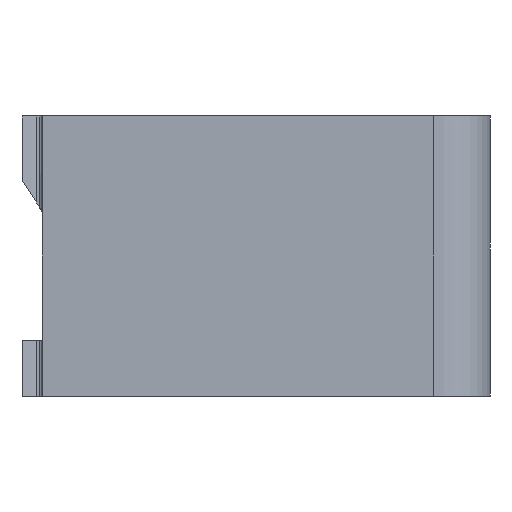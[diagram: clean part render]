
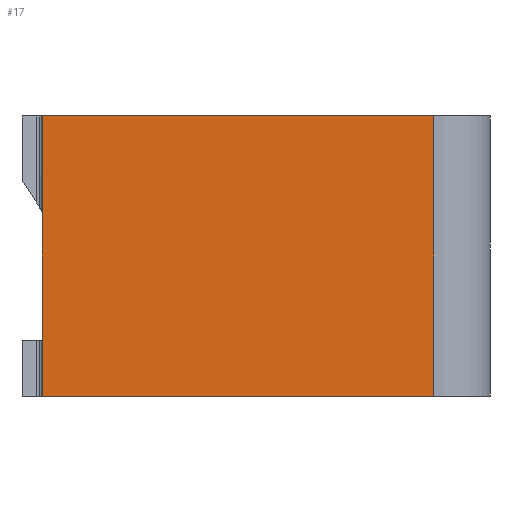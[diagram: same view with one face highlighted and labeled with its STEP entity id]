
A CAD part, left-side view. The second image highlights one B-rep face of the part: STEP entity #17.
In plain terms, the highlighted planar face has unit normal (-1, 0, 0).
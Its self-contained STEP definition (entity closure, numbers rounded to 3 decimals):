
#17 = ADVANCED_FACE('',(#18),#32,.F.);
#18 = FACE_BOUND('',#19,.F.);
#19 = EDGE_LOOP('',(#20,#55,#83,#111));
#20 = ORIENTED_EDGE('',*,*,#21,.F.);
#21 = EDGE_CURVE('',#22,#24,#26,.T.);
#22 = VERTEX_POINT('',#23);
#23 = CARTESIAN_POINT('',(-226.013,-140.131,100.));
#24 = VERTEX_POINT('',#25);
#25 = CARTESIAN_POINT('',(-226.013,-0.15,100.));
#26 = SURFACE_CURVE('',#27,(#31,#43),.PCURVE_S1.);
#27 = LINE('',#28,#29);
#28 = CARTESIAN_POINT('',(-226.013,-160.131,100.));
#29 = VECTOR('',#30,1.);
#30 = DIRECTION('',(0.,1.,0.));
#31 = PCURVE('',#32,#37);
#32 = PLANE('',#33);
#33 = AXIS2_PLACEMENT_3D('',#34,#35,#36);
#34 = CARTESIAN_POINT('',(-226.013,-160.131,0.));
#35 = DIRECTION('',(1.,0.,0.));
#36 = DIRECTION('',(0.,0.,1.));
#37 = DEFINITIONAL_REPRESENTATION('',(#38),#42);
#38 = LINE('',#39,#40);
#39 = CARTESIAN_POINT('',(100.,0.));
#40 = VECTOR('',#41,1.);
#41 = DIRECTION('',(0.,-1.));
#42 = ( GEOMETRIC_REPRESENTATION_CONTEXT(2) 
PARAMETRIC_REPRESENTATION_CONTEXT() REPRESENTATION_CONTEXT('2D SPACE',''
  ) );
#43 = PCURVE('',#44,#49);
#44 = PLANE('',#45);
#45 = AXIS2_PLACEMENT_3D('',#46,#47,#48);
#46 = CARTESIAN_POINT('',(-226.013,-160.131,100.));
#47 = DIRECTION('',(0.,0.,1.));
#48 = DIRECTION('',(1.,0.,-0.));
#49 = DEFINITIONAL_REPRESENTATION('',(#50),#54);
#50 = LINE('',#51,#52);
#51 = CARTESIAN_POINT('',(0.,0.));
#52 = VECTOR('',#53,1.);
#53 = DIRECTION('',(0.,1.));
#54 = ( GEOMETRIC_REPRESENTATION_CONTEXT(2) 
PARAMETRIC_REPRESENTATION_CONTEXT() REPRESENTATION_CONTEXT('2D SPACE',''
  ) );
#55 = ORIENTED_EDGE('',*,*,#56,.F.);
#56 = EDGE_CURVE('',#57,#22,#59,.T.);
#57 = VERTEX_POINT('',#58);
#58 = CARTESIAN_POINT('',(-226.013,-140.131,0.));
#59 = SURFACE_CURVE('',#60,(#64,#71),.PCURVE_S1.);
#60 = LINE('',#61,#62);
#61 = CARTESIAN_POINT('',(-226.013,-140.131,0.));
#62 = VECTOR('',#63,1.);
#63 = DIRECTION('',(0.,0.,1.));
#64 = PCURVE('',#32,#65);
#65 = DEFINITIONAL_REPRESENTATION('',(#66),#70);
#66 = LINE('',#67,#68);
#67 = CARTESIAN_POINT('',(0.,-20.));
#68 = VECTOR('',#69,1.);
#69 = DIRECTION('',(1.,0.));
#70 = ( GEOMETRIC_REPRESENTATION_CONTEXT(2) 
PARAMETRIC_REPRESENTATION_CONTEXT() REPRESENTATION_CONTEXT('2D SPACE',''
  ) );
#71 = PCURVE('',#72,#77);
#72 = CYLINDRICAL_SURFACE('',#73,20.);
#73 = AXIS2_PLACEMENT_3D('',#74,#75,#76);
#74 = CARTESIAN_POINT('',(-206.013,-140.131,0.));
#75 = DIRECTION('',(0.,0.,1.));
#76 = DIRECTION('',(-1.,-0.,0.));
#77 = DEFINITIONAL_REPRESENTATION('',(#78),#82);
#78 = LINE('',#79,#80);
#79 = CARTESIAN_POINT('',(0.,0.));
#80 = VECTOR('',#81,1.);
#81 = DIRECTION('',(0.,1.));
#82 = ( GEOMETRIC_REPRESENTATION_CONTEXT(2) 
PARAMETRIC_REPRESENTATION_CONTEXT() REPRESENTATION_CONTEXT('2D SPACE',''
  ) );
#83 = ORIENTED_EDGE('',*,*,#84,.T.);
#84 = EDGE_CURVE('',#57,#85,#87,.T.);
#85 = VERTEX_POINT('',#86);
#86 = CARTESIAN_POINT('',(-226.013,-0.15,0.));
#87 = SURFACE_CURVE('',#88,(#92,#99),.PCURVE_S1.);
#88 = LINE('',#89,#90);
#89 = CARTESIAN_POINT('',(-226.013,-160.131,0.));
#90 = VECTOR('',#91,1.);
#91 = DIRECTION('',(0.,1.,0.));
#92 = PCURVE('',#32,#93);
#93 = DEFINITIONAL_REPRESENTATION('',(#94),#98);
#94 = LINE('',#95,#96);
#95 = CARTESIAN_POINT('',(0.,0.));
#96 = VECTOR('',#97,1.);
#97 = DIRECTION('',(0.,-1.));
#98 = ( GEOMETRIC_REPRESENTATION_CONTEXT(2) 
PARAMETRIC_REPRESENTATION_CONTEXT() REPRESENTATION_CONTEXT('2D SPACE',''
  ) );
#99 = PCURVE('',#100,#105);
#100 = PLANE('',#101);
#101 = AXIS2_PLACEMENT_3D('',#102,#103,#104);
#102 = CARTESIAN_POINT('',(-226.013,-160.131,0.));
#103 = DIRECTION('',(0.,0.,1.));
#104 = DIRECTION('',(1.,0.,-0.));
#105 = DEFINITIONAL_REPRESENTATION('',(#106),#110);
#106 = LINE('',#107,#108);
#107 = CARTESIAN_POINT('',(0.,0.));
#108 = VECTOR('',#109,1.);
#109 = DIRECTION('',(0.,1.));
#110 = ( GEOMETRIC_REPRESENTATION_CONTEXT(2) 
PARAMETRIC_REPRESENTATION_CONTEXT() REPRESENTATION_CONTEXT('2D SPACE',''
  ) );
#111 = ORIENTED_EDGE('',*,*,#112,.T.);
#112 = EDGE_CURVE('',#85,#24,#113,.T.);
#113 = SURFACE_CURVE('',#114,(#118,#125),.PCURVE_S1.);
#114 = LINE('',#115,#116);
#115 = CARTESIAN_POINT('',(-226.013,-0.15,0.));
#116 = VECTOR('',#117,1.);
#117 = DIRECTION('',(0.,0.,1.));
#118 = PCURVE('',#32,#119);
#119 = DEFINITIONAL_REPRESENTATION('',(#120),#124);
#120 = LINE('',#121,#122);
#121 = CARTESIAN_POINT('',(0.,-159.981));
#122 = VECTOR('',#123,1.);
#123 = DIRECTION('',(1.,0.));
#124 = ( GEOMETRIC_REPRESENTATION_CONTEXT(2) 
PARAMETRIC_REPRESENTATION_CONTEXT() REPRESENTATION_CONTEXT('2D SPACE',''
  ) );
#125 = PCURVE('',#126,#131);
#126 = PLANE('',#127);
#127 = AXIS2_PLACEMENT_3D('',#128,#129,#130);
#128 = CARTESIAN_POINT('',(-226.013,-0.15,0.));
#129 = DIRECTION('',(-0.,1.,0.));
#130 = DIRECTION('',(0.,0.,1.));
#131 = DEFINITIONAL_REPRESENTATION('',(#132),#136);
#132 = LINE('',#133,#134);
#133 = CARTESIAN_POINT('',(0.,0.));
#134 = VECTOR('',#135,1.);
#135 = DIRECTION('',(1.,0.));
#136 = ( GEOMETRIC_REPRESENTATION_CONTEXT(2) 
PARAMETRIC_REPRESENTATION_CONTEXT() REPRESENTATION_CONTEXT('2D SPACE',''
  ) );
